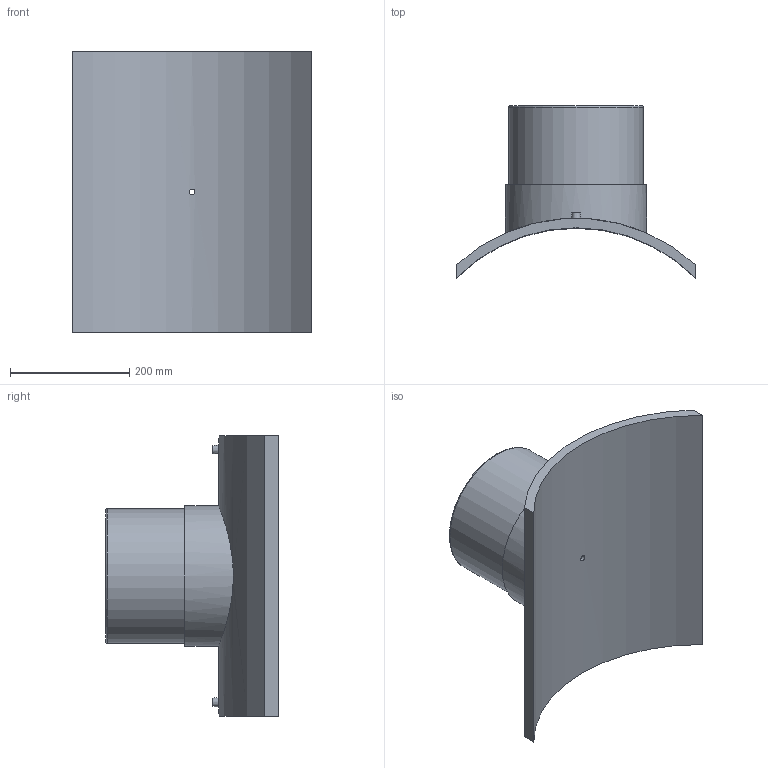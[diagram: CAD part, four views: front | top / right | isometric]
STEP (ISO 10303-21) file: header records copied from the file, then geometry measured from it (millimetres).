
FILE_DESCRIPTION(/* description */ ('PLASSON BRANCH SADDLE 560x225'),/* implementation_level */ '2;1');
FILE_NAME(/* name */ 'C:\Dropbox\KIMPROJECTS-Inventor 2019\99-16-3568-Processing\ElectroFusion Fittings\495803\stp\495803560225T.stp',/* time_stamp */ '2024-04-04T11:52:51+02:00',/* author */ ('KIM'),/* organization */ (''),/* preprocessor_version */ 'ST-DEVELOPER v17.2',/* originating_system */ 'Autodesk Inventor 2019',/* authorisation */ '');
FILE_SCHEMA (('AUTOMOTIVE_DESIGN { 1 0 10303 214 3 1 1 }'));
Length unit declared in the file: millimetre
Products named in the file (1): 495803560225T
Bounding box: 400 x 289.04 x 470 mm (x, y, z)
Volume: 6447907.9 mm3; surface area: 714103.5 mm2
Topology: 1 solids, 1 shells, 29 faces, 60 edges, 43 vertices
Faces by surface type: plane 13, cylinder 12, torus 2, cone 2
Full cylindrical faces by diameter (mm): 4 x2, 9.6 x1, 10 x2, 16 x1, 180 x1, 225 x1, 236.25 x1
Entity records: 1086 total; most frequent: CARTESIAN_POINT 400, DIRECTION 139, ORIENTED_EDGE 120, EDGE_CURVE 60, AXIS2_PLACEMENT_3D 60, VERTEX_POINT 43, EDGE_LOOP 41, CIRCLE 30
